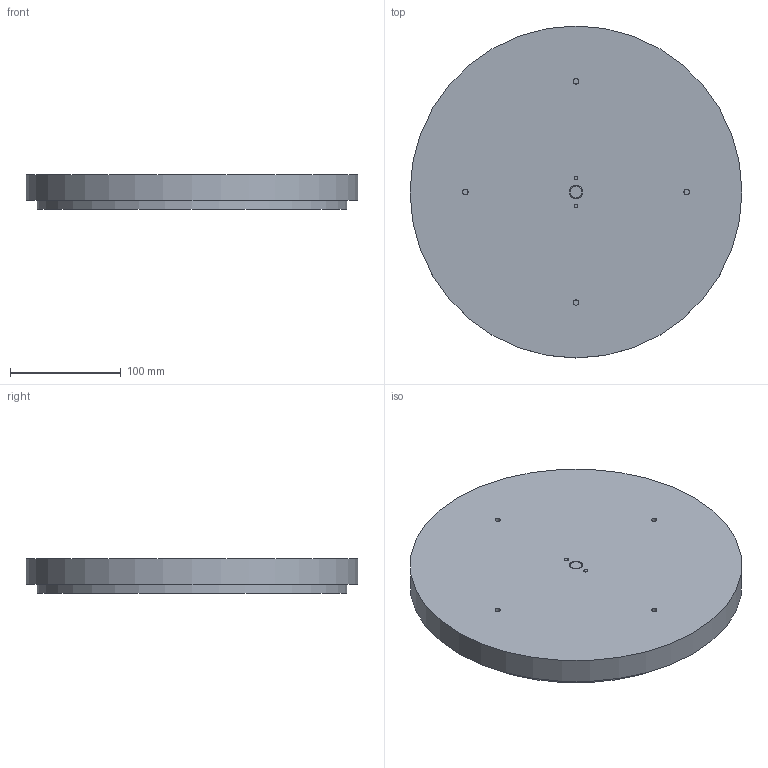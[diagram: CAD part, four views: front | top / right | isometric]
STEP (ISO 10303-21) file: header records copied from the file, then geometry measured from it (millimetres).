
FILE_DESCRIPTION(/* description */ (''),/* implementation_level */ '2;1');
FILE_NAME(/* name */ 'Z:\34-Tei\01-web 3Dデータ\37-IRT型\IRT-300.stp',/* time_stamp */ '2015-01-14T11:15:07+09:00',/* author */ ('yamaki'),/* organization */ (''),/* preprocessor_version */ 'ST-DEVELOPER v15.6',/* originating_system */ 'Autodesk Inventor 2015',/* authorisation */ '');
FILE_SCHEMA (('AUTOMOTIVE_DESIGN { 1 0 10303 214 3 1 1 }'));
Length unit declared in the file: millimetre
Products named in the file (7): 2730TD; 2730SD; 2730SU; 2730TU; JIS B 1111 - Csunk M4 x 6 - H; JIS B 1111 - Csunk M5 x 10 - H; IRT-300
Bounding box: 300 x 300 x 31.6 mm (x, y, z)
Volume: 519166.5 mm3; surface area: 350942.9 mm2
Topology: 10 solids, 10 shells, 255 faces, 638 edges, 413 vertices
Faces by surface type: cone 86, plane 80, cylinder 57, torus 32
Full cylindrical faces by diameter (mm): 3.242 x2, 3.571 x2, 4 x2, 4.134 x4, 4.509 x4, 4.917 x8, 5 x6, 6 x4, 8.4 x2, 9.3 x4, 11.5 x2, 11.7 x1, 12 x5, 21 x1, 26 x1, 31.7 x1, 32 x1, 35 x2, 68 x1, 276 x1, 280 x1, 296 x1, 300 x1
Entity records: 3963 total; most frequent: CARTESIAN_POINT 906, DIRECTION 638, ORIENTED_EDGE 474, AXIS2_PLACEMENT_3D 303, EDGE_LOOP 270, EDGE_CURVE 237, VERTEX_POINT 195, CIRCLE 147
